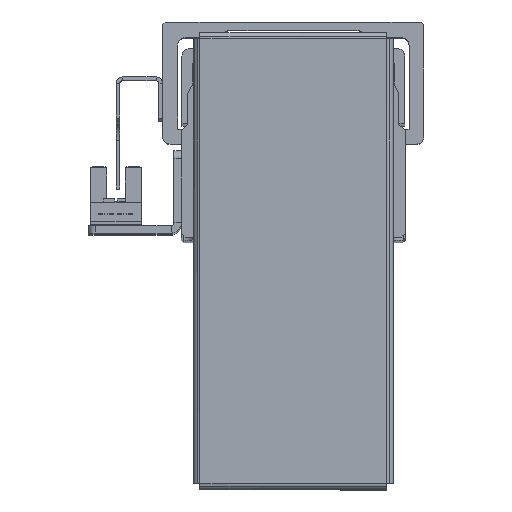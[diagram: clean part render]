
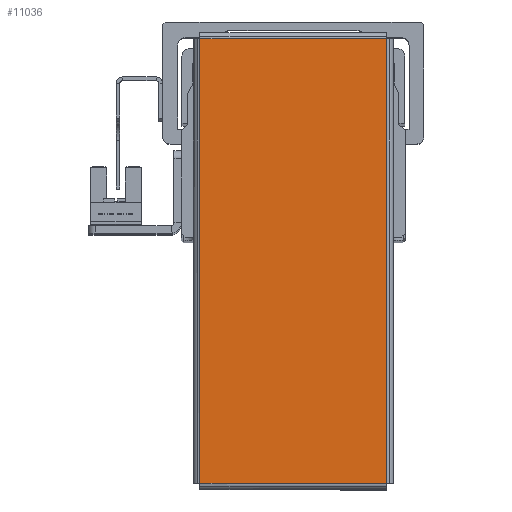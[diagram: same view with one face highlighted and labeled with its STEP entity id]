
A CAD part, top view. The second image highlights one B-rep face of the part: STEP entity #11036.
In plain terms, the highlighted planar face has unit normal (0, 0, 1) as drawn and (0, 0, -1) by its records, which use the part's own axes.
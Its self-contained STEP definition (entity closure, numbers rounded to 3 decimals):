
#4077 = EDGE_CURVE ( 'NONE', #19569, #19658, #21273, .T. ) ;
#4101 = EDGE_CURVE ( 'NONE', #19590, #19569, #21277, .T. ) ;
#4102 = EDGE_CURVE ( 'NONE', #19604, #19590, #21306, .T. ) ;
#4124 = EDGE_CURVE ( 'NONE', #19658, #19604, #21341, .T. ) ;
#7936 = CARTESIAN_POINT ( 'NONE',  ( 59.513, -25.013, -1. ) ) ;
#7952 = CARTESIAN_POINT ( 'NONE',  ( -59.513, 25.013, -1. ) ) ;
#7971 = CARTESIAN_POINT ( 'NONE',  ( 59.513, 25.013, -1. ) ) ;
#8013 = CARTESIAN_POINT ( 'NONE',  ( -59.513, -25.013, -1. ) ) ;
#11036 = ADVANCED_FACE ( 'NONE', ( #27758 ), #29622, .F. ) ;
#11413 = ORIENTED_EDGE ( 'NONE', *, *, #4077, .T. ) ;
#11436 = ORIENTED_EDGE ( 'NONE', *, *, #4102, .T. ) ;
#11471 = ORIENTED_EDGE ( 'NONE', *, *, #4124, .T. ) ;
#11514 = ORIENTED_EDGE ( 'NONE', *, *, #4101, .T. ) ;
#14612 = EDGE_LOOP ( 'NONE', ( #11514, #11413, #11471, #11436 ) ) ;
#19569 = VERTEX_POINT ( 'NONE', #7936 ) ;
#19590 = VERTEX_POINT ( 'NONE', #7971 ) ;
#19604 = VERTEX_POINT ( 'NONE', #7952 ) ;
#19658 = VERTEX_POINT ( 'NONE', #8013 ) ;
#21273 = LINE ( 'NONE', #22353, #21312 ) ;
#21277 = LINE ( 'NONE', #22424, #21295 ) ;
#21295 = VECTOR ( 'NONE', #22428, 1000. ) ;
#21296 = VECTOR ( 'NONE', #22397, 1000. ) ;
#21306 = LINE ( 'NONE', #22407, #21296 ) ;
#21312 = VECTOR ( 'NONE', #22330, 1000. ) ;
#21341 = LINE ( 'NONE', #22439, #21370 ) ;
#21370 = VECTOR ( 'NONE', #22451, 1000. ) ;
#22330 = DIRECTION ( 'NONE',  ( -1., 0., 0. ) ) ;
#22353 = CARTESIAN_POINT ( 'NONE',  ( 59.543, -25.013, -1. ) ) ;
#22397 = DIRECTION ( 'NONE',  ( 1., 0., 0. ) ) ;
#22407 = CARTESIAN_POINT ( 'NONE',  ( -59.543, 25.013, -1. ) ) ;
#22424 = CARTESIAN_POINT ( 'NONE',  ( 59.513, 25.043, -1. ) ) ;
#22428 = DIRECTION ( 'NONE',  ( 0., -1., 0. ) ) ;
#22439 = CARTESIAN_POINT ( 'NONE',  ( -59.513, -25.043, -1. ) ) ;
#22451 = DIRECTION ( 'NONE',  ( 0., 1., 0. ) ) ;
#27758 = FACE_OUTER_BOUND ( 'NONE', #14612, .T. ) ;
#29622 = PLANE ( 'NONE',  #30143 ) ;
#29717 = CARTESIAN_POINT ( 'NONE',  ( 0., 0., -1. ) ) ;
#29741 = DIRECTION ( 'NONE',  ( 0., 0., 1. ) ) ;
#29777 = DIRECTION ( 'NONE',  ( 1., 0., 0. ) ) ;
#30143 = AXIS2_PLACEMENT_3D ( 'NONE', #29717, #29741, #29777 ) ;
